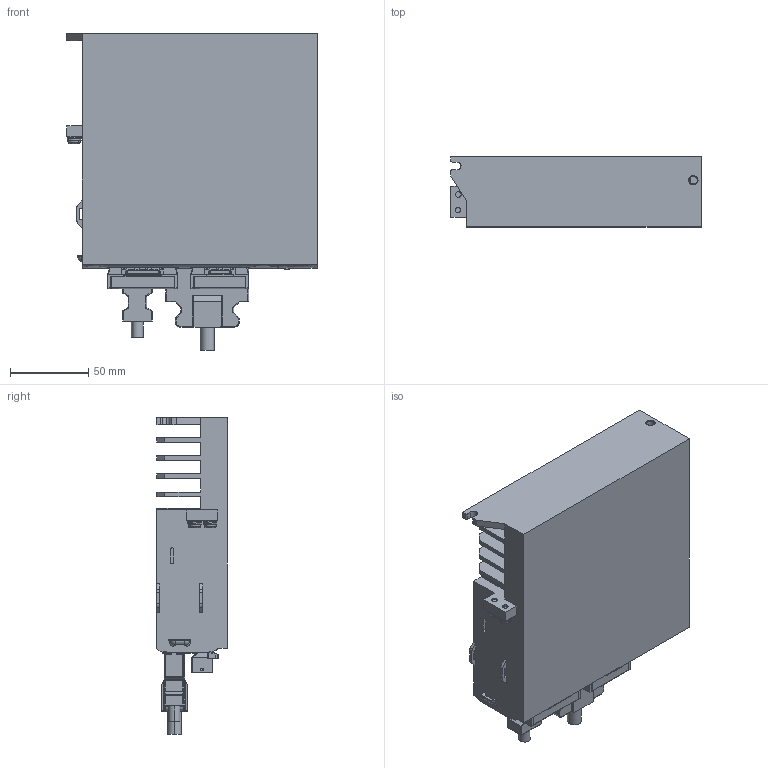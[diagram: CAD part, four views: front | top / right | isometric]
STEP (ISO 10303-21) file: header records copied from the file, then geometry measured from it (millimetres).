
FILE_DESCRIPTION (( 'STEP AP214' ), '1' );
FILE_NAME ('Ω6s-AP-A型-通用&基础-整机外形图.STEP', '2023-04-19T01:52:00', ( '' ), ( '' ), 'SwSTEP 2.0', 'SolidWorks 2014', '' );
FILE_SCHEMA (( 'AUTOMOTIVE_DESIGN' ));
Length unit declared in the file: millimetre
Products named in the file (22): M4-H8; plug-t3507505; jack-t3507505; plug-t3507506; 控制回路端子插座-SCI-SOSCN-君昊; STO譫釱-C3030WR-F-2X04P; 橈勤硉晤鎢ん脣芛; STOM2X04P; jack-t3507506; 400WP; 次6s-AP-A倰-籵蚚&價插-淕儂俋倛芞
Assembly tree (11 placements, depth 2):
  M4-H8
  plug-t3507505
  控制回路端子插座-SCI-SOSCN-君昊
  STO譫釱-C3030WR-F-2X04P
  jack-t3507506
Bounding box: 160 x 45 x 202.6 mm (x, y, z)
Volume: 867606.7 mm3; surface area: 163088.8 mm2
Topology: 18 solids, 19 shells, 4181 faces, 11515 edges, 7418 vertices
Faces by surface type: plane 3196, cylinder 491, bspline 425, sphere 26, torus 24, cone 19
Entity records: 148920 total; most frequent: CARTESIAN_POINT 46131, ORIENTED_EDGE 22786, DIRECTION 18258, EDGE_CURVE 11393, LINE 9294, VECTOR 9294, VERTEX_POINT 7354, AXIS2_PLACEMENT_3D 4482
